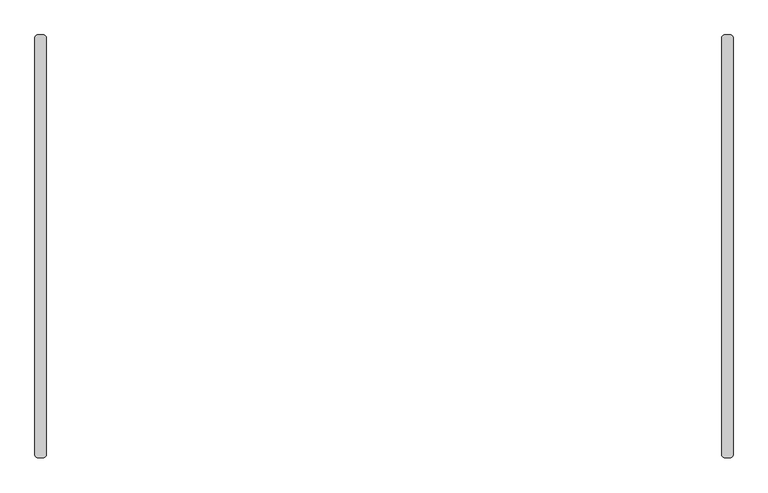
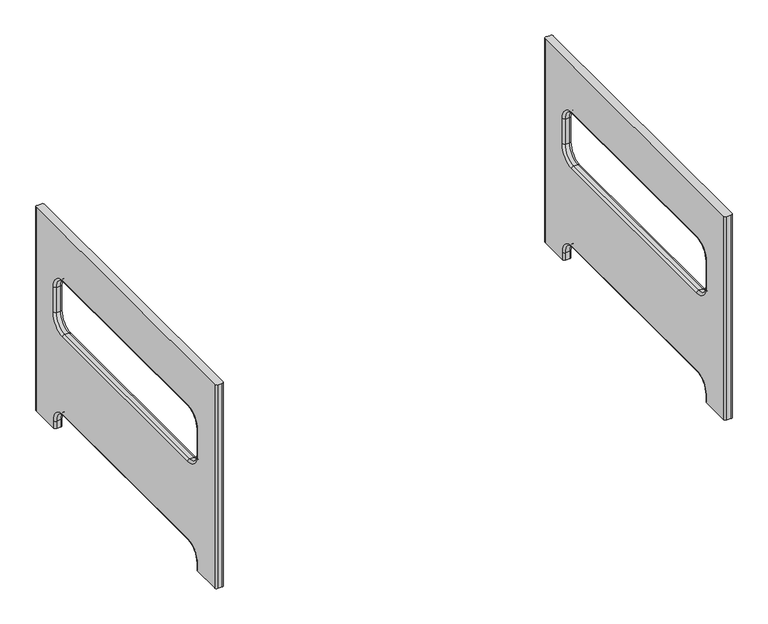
"""IFC4 building model written with IfcOpenShell, lengths in millimetres: furniture geometry, SSL-Childcraft_Outdoor-Table-Rectangle : 2161354."""

from ifc_helpers import new_model, si_unit, point, frame, origin, place, context, project, spatial, polyline, circle_curve, ellipse_curve, trimmed, source, transform, mapped, element, save
from ifc_brep_helpers import plane_surface, cylinder_surface, revolved_surface, advanced_brep


def furniture_ba2c45e2(model_context):
    return source(origin(), model_context, "Body", "AdvancedBrep", [
        advanced_brep(
        [(-573.0875, 355.6, 488.95), (-582.6125, 355.6, 488.95), (-587.375, 350.8375, 488.95), (-587.375, -350.8375, 488.95), (-582.6125, -355.6, 488.95), (-573.0875, -355.6, 488.95), (-568.325, -350.8375, 488.95), (-568.325, 350.8375, 488.95), (-573.0875, 355.6, 0.0), (-568.325, 350.8375, 0.0), (-568.325, 283.36875, 0.0), (-573.0875, 278.60625, 0.0), (-582.6125, 278.60625, 0.0), (-587.375, 283.36875, 0.0), (-587.375, 350.8375, 0.0), (-582.6125, 355.6, 0.0), (-573.0875, -355.6, 0.0), (-582.6125, -355.6, 0.0), (-587.375, -350.8375, 0.0), (-587.375, -283.36875, 0.0), (-582.6125, -278.60625, 0.0), (-573.0875, -278.60625, 0.0), (-568.325, -283.36875, 0.0), (-568.325, -350.8375, 0.0), (-587.375, 283.36875, 17.4625), (-587.375, 246.0625, 54.76875), (-587.375, -246.0625, 54.76875), (-587.375, -283.36875, 17.4625), (-587.375, -246.0625, 375.44375), (-587.375, -283.36875, 338.1375), (-587.375, -283.36875, 277.8125), (-587.375, -246.0625, 240.50625), (-587.375, 246.0625, 240.50625), (-587.375, 283.36875, 277.8125), (-587.375, 283.36875, 338.1375), (-587.375, 246.0625, 375.44375), (-568.325, -283.36875, 17.4625), (-568.325, -246.0625, 54.76875), (-568.325, 246.0625, 54.76875), (-568.325, 283.36875, 17.4625), (-568.325, -283.36875, 338.1375), (-568.325, -246.0625, 375.44375), (-568.325, 246.0625, 375.44375), (-568.325, 283.36875, 338.1375), (-568.325, 283.36875, 277.8125), (-568.325, 246.0625, 240.50625), (-568.325, -246.0625, 240.50625), (-568.325, -283.36875, 277.8125), (-582.6125, -278.60625, 17.4625), (-573.0875, -278.60625, 17.4625), (-582.6125, -246.0625, 50.00625), (-573.0875, -246.0625, 50.00625), (-582.6125, 246.0625, 50.00625), (-573.0875, 246.0625, 50.00625), (-582.6125, 278.60625, 17.4625), (-573.0875, 278.60625, 17.4625), (-573.0875, -278.60625, 338.1375), (-573.0875, -246.0625, 370.68125), (-582.6125, -278.60625, 338.1375), (-582.6125, -246.0625, 370.68125), (-573.0875, -278.60625, 277.8125), (-582.6125, -278.60625, 277.8125), (-573.0875, -246.0625, 245.26875), (-582.6125, -246.0625, 245.26875), (-573.0875, 246.0625, 245.26875), (-582.6125, 246.0625, 245.26875), (-573.0875, 278.60625, 277.8125), (-582.6125, 278.60625, 277.8125), (-573.0875, 278.60625, 338.1375), (-582.6125, 278.60625, 338.1375), (-573.0875, 246.0625, 370.68125), (-582.6125, 246.0625, 370.68125)],
        [
            (0, 1),
            (1, 2, circle_curve(frame((-582.6125, 350.8375, 488.95), z_axis=(0.0, 0.0, 1.0), x_axis=(1.0, 0.0, 0.0)), 4.7625)),
            (2, 3),
            (3, 4, circle_curve(frame((-582.6125, -350.8375, 488.95), z_axis=(0.0, 0.0, 1.0), x_axis=(1.0, 0.0, 0.0)), 4.7625)),
            (4, 5),
            (5, 6, circle_curve(frame((-573.0875, -350.8375, 488.95), z_axis=(0.0, 0.0, 1.0), x_axis=(1.0, 0.0, 0.0)), 4.7625)),
            (6, 7),
            (7, 0, circle_curve(frame((-573.0875, 350.8375, 488.95), z_axis=(0.0, 0.0, 1.0), x_axis=(1.0, 0.0, 0.0)), 4.7625)),
            (8, 9, circle_curve(frame((-573.0875, 350.8375, 0.0), z_axis=(0.0, 0.0, -1.0), x_axis=(1.0, 0.0, 0.0)), 4.7625)),
            (9, 10),
            (10, 11, circle_curve(frame((-573.0875, 283.36875, 0.0), z_axis=(0.0, 0.0, -1.0), x_axis=(0.0, 1.0, 0.0)), 4.7625)),
            (11, 12),
            (12, 13, circle_curve(frame((-582.6125, 283.36875, 0.0), z_axis=(0.0, 0.0, -1.0), x_axis=(0.0, 1.0, 0.0)), 4.7625)),
            (13, 14),
            (14, 15, circle_curve(frame((-582.6125, 350.8375, 0.0), z_axis=(0.0, 0.0, -1.0), x_axis=(1.0, 0.0, 0.0)), 4.7625)),
            (15, 8),
            (16, 17),
            (17, 18, circle_curve(frame((-582.6125, -350.8375, 0.0), z_axis=(0.0, 0.0, -1.0), x_axis=(1.0, 0.0, 0.0)), 4.7625)),
            (18, 19),
            (19, 20, circle_curve(frame((-582.6125, -283.36875, 0.0), z_axis=(0.0, 0.0, -1.0), x_axis=(0.0, -1.0, 0.0)), 4.7625)),
            (20, 21),
            (21, 22, circle_curve(frame((-573.0875, -283.36875, 0.0), z_axis=(0.0, 0.0, -1.0), x_axis=(0.0, -1.0, 0.0)), 4.7625)),
            (22, 23),
            (23, 16, circle_curve(frame((-573.0875, -350.8375, 0.0), z_axis=(0.0, 0.0, -1.0), x_axis=(1.0, 0.0, 0.0)), 4.7625)),
            (0, 8),
            (15, 1),
            (14, 2),
            (13, 24),
            (24, 25, circle_curve(frame((-587.375, 246.0625, 17.4625), z_axis=(1.0, 0.0, 0.0), x_axis=(0.0, 0.0, 1.0)), 37.30625)),
            (25, 26),
            (26, 27, circle_curve(frame((-587.375, -246.0625, 17.4625), z_axis=(1.0, 0.0, 0.0), x_axis=(0.0, -1.0, 0.0)), 37.30625)),
            (27, 19),
            (18, 3),
            (28, 29, circle_curve(frame((-587.375, -246.0625, 338.1375), z_axis=(1.0, 0.0, 0.0), x_axis=(0.0, 0.0, 1.0)), 37.30625)),
            (29, 30),
            (30, 31, circle_curve(frame((-587.375, -246.0625, 277.8125), z_axis=(1.0, 0.0, 0.0), x_axis=(0.0, -1.0, 0.0)), 37.30625)),
            (31, 32),
            (32, 33, circle_curve(frame((-587.375, 246.0625, 277.8125), z_axis=(1.0, 0.0, 0.0), x_axis=(0.0, 0.0, -1.0)), 37.30625)),
            (33, 34),
            (34, 35, circle_curve(frame((-587.375, 246.0625, 338.1375), z_axis=(1.0, 0.0, 0.0), x_axis=(0.0, 1.0, 0.0)), 37.30625)),
            (35, 28),
            (9, 7),
            (6, 23),
            (22, 36),
            (36, 37, circle_curve(frame((-568.325, -246.0625, 17.4625), z_axis=(-1.0, 0.0, 0.0), x_axis=(0.0, -1.0, 0.0)), 37.30625)),
            (37, 38),
            (38, 39, circle_curve(frame((-568.325, 246.0625, 17.4625), z_axis=(-1.0, 0.0, 0.0), x_axis=(0.0, 0.0, 1.0)), 37.30625)),
            (39, 10),
            (40, 41, circle_curve(frame((-568.325, -246.0625, 338.1375), z_axis=(-1.0, 0.0, 0.0), x_axis=(0.0, 0.0, 1.0)), 37.30625)),
            (41, 42),
            (42, 43, circle_curve(frame((-568.325, 246.0625, 338.1375), z_axis=(-1.0, 0.0, 0.0), x_axis=(0.0, 1.0, 0.0)), 37.30625)),
            (43, 44),
            (44, 45, circle_curve(frame((-568.325, 246.0625, 277.8125), z_axis=(-1.0, 0.0, 0.0), x_axis=(0.0, 0.0, -1.0)), 37.30625)),
            (45, 46),
            (46, 47, circle_curve(frame((-568.325, -246.0625, 277.8125), z_axis=(-1.0, 0.0, 0.0), x_axis=(0.0, -1.0, 0.0)), 37.30625)),
            (47, 40),
            (5, 16),
            (17, 4),
            (27, 48, circle_curve(frame((-582.6125, -283.36875, 17.4625), z_axis=(0.0, 0.0, -1.0), x_axis=(0.0, -1.0, 0.0)), 4.7625)),
            (48, 20),
            (48, 49),
            (49, 21),
            (49, 36, circle_curve(frame((-573.0875, -283.36875, 17.4625), z_axis=(0.0, 0.0, -1.0), x_axis=(0.0, -1.0, 0.0)), 4.7625)),
            (26, 50, circle_curve(frame((-582.6125, -246.0625, 54.76875), z_axis=(0.0, -1.0, 0.0), x_axis=(0.0, 0.0, 1.0)), 4.7625)),
            (50, 48, circle_curve(frame((-582.6125, -246.0625, 17.4625), z_axis=(1.0, 0.0, 0.0), x_axis=(0.0, -1.0, 0.0)), 32.54375)),
            (50, 51),
            (51, 49, circle_curve(frame((-573.0875, -246.0625, 17.4625), z_axis=(1.0, 0.0, 0.0), x_axis=(0.0, -1.0, 0.0)), 32.54375)),
            (51, 37, circle_curve(frame((-573.0875, -246.0625, 54.76875), z_axis=(0.0, -1.0, 0.0), x_axis=(0.0, 0.0, 1.0)), 4.7625)),
            (25, 52, circle_curve(frame((-582.6125, 246.0625, 54.76875), z_axis=(0.0, -1.0, 0.0), x_axis=(0.0, 0.0, 1.0)), 4.7625)),
            (52, 50),
            (52, 53),
            (53, 51),
            (53, 38, circle_curve(frame((-573.0875, 246.0625, 54.76875), z_axis=(0.0, -1.0, 0.0), x_axis=(0.0, 0.0, 1.0)), 4.7625)),
            (24, 54, circle_curve(frame((-582.6125, 283.36875, 17.4625), z_axis=(0.0, 0.0, 1.0), x_axis=(0.0, 1.0, 0.0)), 4.7625)),
            (54, 52, circle_curve(frame((-582.6125, 246.0625, 17.4625), z_axis=(1.0, 0.0, 0.0), x_axis=(0.0, 0.0, 1.0)), 32.54375)),
            (54, 55),
            (55, 53, circle_curve(frame((-573.0875, 246.0625, 17.4625), z_axis=(1.0, 0.0, 0.0), x_axis=(0.0, 0.0, 1.0)), 32.54375)),
            (55, 39, circle_curve(frame((-573.0875, 283.36875, 17.4625), z_axis=(0.0, 0.0, 1.0), x_axis=(0.0, 1.0, 0.0)), 4.7625)),
            (12, 54),
            (11, 55),
            (56, 57, circle_curve(frame((-573.0875, -246.0625, 338.1375), z_axis=(-1.0, 0.0, 0.0), x_axis=(0.0, 0.0, 1.0)), 32.54375)),
            (57, 41, circle_curve(frame((-573.0875, -246.0625, 375.44375), z_axis=(0.0, -1.0, 0.0), x_axis=(0.0, 0.0, -1.0)), 4.7625)),
            (40, 56, circle_curve(frame((-573.0875, -283.36875, 338.1375), z_axis=(0.0, 0.0, 1.0), x_axis=(0.0, 1.0, 0.0)), 4.7625)),
            (56, 58),
            (58, 59, circle_curve(frame((-582.6125, -246.0625, 338.1375), z_axis=(-1.0, 0.0, 0.0), x_axis=(0.0, 0.0, 1.0)), 32.54375)),
            (59, 57),
            (58, 29, circle_curve(frame((-582.6125, -283.36875, 338.1375), z_axis=(0.0, 0.0, 1.0), x_axis=(0.0, 1.0, 0.0)), 4.7625)),
            (28, 59, circle_curve(frame((-582.6125, -246.0625, 375.44375), z_axis=(0.0, -1.0, 0.0), x_axis=(0.0, 0.0, -1.0)), 4.7625)),
            (47, 60, circle_curve(frame((-573.0875, -283.36875, 277.8125), z_axis=(0.0, 0.0, 1.0), x_axis=(0.0, 1.0, 0.0)), 4.7625)),
            (60, 56),
            (60, 61),
            (61, 58),
            (61, 30, circle_curve(frame((-582.6125, -283.36875, 277.8125), z_axis=(0.0, 0.0, 1.0), x_axis=(0.0, 1.0, 0.0)), 4.7625)),
            (46, 62, circle_curve(frame((-573.0875, -246.0625, 240.50625), z_axis=(0.0, -1.0, 0.0), x_axis=(0.0, 0.0, 1.0)), 4.7625)),
            (62, 60, circle_curve(frame((-573.0875, -246.0625, 277.8125), z_axis=(-1.0, 0.0, 0.0), x_axis=(0.0, -1.0, 0.0)), 32.54375)),
            (62, 63),
            (63, 61, circle_curve(frame((-582.6125, -246.0625, 277.8125), z_axis=(-1.0, 0.0, 0.0), x_axis=(0.0, -1.0, 0.0)), 32.54375)),
            (63, 31, circle_curve(frame((-582.6125, -246.0625, 240.50625), z_axis=(0.0, -1.0, 0.0), x_axis=(0.0, 0.0, 1.0)), 4.7625)),
            (45, 64, circle_curve(frame((-573.0875, 246.0625, 240.50625), z_axis=(0.0, -1.0, 0.0), x_axis=(0.0, 0.0, 1.0)), 4.7625)),
            (64, 62),
            (64, 65),
            (65, 63),
            (65, 32, circle_curve(frame((-582.6125, 246.0625, 240.50625), z_axis=(0.0, -1.0, 0.0), x_axis=(0.0, 0.0, 1.0)), 4.7625)),
            (44, 66, circle_curve(frame((-573.0875, 283.36875, 277.8125), z_axis=(0.0, 0.0, -1.0), x_axis=(0.0, -1.0, 0.0)), 4.7625)),
            (66, 64, circle_curve(frame((-573.0875, 246.0625, 277.8125), z_axis=(-1.0, 0.0, 0.0), x_axis=(0.0, 0.0, -1.0)), 32.54375)),
            (66, 67),
            (67, 65, circle_curve(frame((-582.6125, 246.0625, 277.8125), z_axis=(-1.0, 0.0, 0.0), x_axis=(0.0, 0.0, -1.0)), 32.54375)),
            (67, 33, circle_curve(frame((-582.6125, 283.36875, 277.8125), z_axis=(0.0, 0.0, -1.0), x_axis=(0.0, -1.0, 0.0)), 4.7625)),
            (43, 68, circle_curve(frame((-573.0875, 283.36875, 338.1375), z_axis=(0.0, 0.0, -1.0), x_axis=(0.0, -1.0, 0.0)), 4.7625)),
            (68, 66),
            (68, 69),
            (69, 67),
            (69, 34, circle_curve(frame((-582.6125, 283.36875, 338.1375), z_axis=(0.0, 0.0, -1.0), x_axis=(0.0, -1.0, 0.0)), 4.7625)),
            (42, 70, circle_curve(frame((-573.0875, 246.0625, 375.44375), z_axis=(0.0, 1.0, 0.0), x_axis=(0.0, 0.0, -1.0)), 4.7625)),
            (70, 68, circle_curve(frame((-573.0875, 246.0625, 338.1375), z_axis=(-1.0, 0.0, 0.0), x_axis=(0.0, 1.0, 0.0)), 32.54375)),
            (70, 71),
            (71, 69, circle_curve(frame((-582.6125, 246.0625, 338.1375), z_axis=(-1.0, 0.0, 0.0), x_axis=(0.0, 1.0, 0.0)), 32.54375)),
            (71, 35, circle_curve(frame((-582.6125, 246.0625, 375.44375), z_axis=(0.0, 1.0, 0.0), x_axis=(0.0, 0.0, -1.0)), 4.7625)),
            (57, 70),
            (59, 71),
        ],
        [
            plane_surface(frame((-582.6125, 355.6, 488.95), z_axis=(0.0, 0.0, 1.0), x_axis=(-1.0, 0.0, 0.0))),
            plane_surface(frame((-582.6125, 355.6, 0.0), z_axis=(0.0, 0.0, -1.0), x_axis=(1.0, 0.0, 0.0))),
            plane_surface(frame((-573.0875, 355.6, 488.95), z_axis=(0.0, 1.0, 0.0), x_axis=(0.0, 0.0, -1.0))),
            cylinder_surface(frame((-582.6125, 350.8375, 0.0), z_axis=(0.0, 0.0, 1.0), x_axis=(1.0, 0.0, 0.0)), 4.7625),
            plane_surface(frame((-587.375, 350.8375, 488.95), z_axis=(-1.0, 0.0, 0.0), x_axis=(0.0, 0.0, -1.0))),
            plane_surface(frame((-568.325, 350.04375, 488.95), z_axis=(1.0, 0.0, 0.0), x_axis=(0.0, 0.0, -1.0))),
            cylinder_surface(frame((-573.0875, 350.8375, 0.0), z_axis=(0.0, 0.0, 1.0), x_axis=(1.0, 0.0, 0.0)), 4.7625),
            cylinder_surface(frame((-573.0875, -350.8375, 0.0), z_axis=(0.0, 0.0, 1.0), x_axis=(1.0, 0.0, 0.0)), 4.7625),
            cylinder_surface(frame((-582.6125, -350.8375, 0.0), z_axis=(0.0, 0.0, 1.0), x_axis=(1.0, 0.0, 0.0)), 4.7625),
            plane_surface(frame((-582.6125, -355.6, 488.95), z_axis=(0.0, -1.0, 0.0), x_axis=(0.0, 0.0, -1.0))),
            cylinder_surface(frame((-582.6125, -283.36875, 0.0), z_axis=(0.0, 0.0, -1.0), x_axis=(0.0, -1.0, 0.0)), 4.7625),
            plane_surface(frame((-582.6125, -278.60625, 0.0), z_axis=(0.0, 1.0, 0.0), x_axis=(0.0, 0.0, 1.0))),
            cylinder_surface(frame((-573.0875, -283.36875, 0.0), z_axis=(0.0, 0.0, -1.0), x_axis=(0.0, -1.0, 0.0)), 4.7625),
            revolved_surface(trimmed(ellipse_curve(frame((-582.6125, -283.36875, 17.4625), z_axis=(0.0, 0.0, -1.0), x_axis=(0.0, -1.0, 0.0)), 4.7625, 4.7625), [point((-587.375, -283.36875, 17.4625))], [point((-582.6125, -278.60625, 17.4625))], True, "CARTESIAN"), (0.0, -246.0625, 17.4625), (-1.0, 0.0, 0.0)),
            revolved_surface(polyline([(-582.6125, -278.60625, 17.4625), (-573.0875, -278.60625, 17.4625)]), (0.0, -246.0625, 17.4625), (-1.0, 0.0, 0.0)),
            revolved_surface(trimmed(ellipse_curve(frame((-573.0875, -283.36875, 17.4625), z_axis=(0.0, 0.0, -1.0), x_axis=(0.0, -1.0, 0.0)), 4.7625, 4.7625), [point((-573.0875, -278.60625, 17.4625))], [point((-568.325, -283.36875, 17.4625))], True, "CARTESIAN"), (0.0, -246.0625, 17.4625), (-1.0, 0.0, 0.0)),
            cylinder_surface(frame((-582.6125, -246.0625, 54.76875), z_axis=(0.0, -1.0, 0.0), x_axis=(0.0, 0.0, 1.0)), 4.7625),
            plane_surface(frame((-582.6125, -246.0625, 50.00625), z_axis=(0.0, 0.0, -1.0), x_axis=(0.0, 1.0, 0.0))),
            cylinder_surface(frame((-573.0875, -246.0625, 54.76875), z_axis=(0.0, -1.0, 0.0), x_axis=(0.0, 0.0, 1.0)), 4.7625),
            revolved_surface(trimmed(ellipse_curve(frame((-582.6125, 246.0625, 54.76875), z_axis=(0.0, -1.0, 0.0), x_axis=(0.0, 0.0, 1.0)), 4.7625, 4.7625), [point((-587.375, 246.0625, 54.76875))], [point((-582.6125, 246.0625, 50.00625))], True, "CARTESIAN"), (0.0, 246.0625, 17.4625), (-1.0, 0.0, 0.0)),
            revolved_surface(polyline([(-582.6125, 246.0625, 50.00625), (-573.0875, 246.0625, 50.00625)]), (0.0, 246.0625, 17.4625), (-1.0, 0.0, 0.0)),
            revolved_surface(trimmed(ellipse_curve(frame((-573.0875, 246.0625, 54.76875), z_axis=(0.0, -1.0, 0.0), x_axis=(0.0, 0.0, 1.0)), 4.7625, 4.7625), [point((-573.0875, 246.0625, 50.00625))], [point((-568.325, 246.0625, 54.76875))], True, "CARTESIAN"), (0.0, 246.0625, 17.4625), (-1.0, 0.0, 0.0)),
            cylinder_surface(frame((-582.6125, 283.36875, 17.4625), z_axis=(0.0, 0.0, 1.0), x_axis=(0.0, 1.0, 0.0)), 4.7625),
            plane_surface(frame((-582.6125, 278.60625, 17.4625), z_axis=(0.0, -1.0, 0.0), x_axis=(0.0, 0.0, -1.0))),
            cylinder_surface(frame((-573.0875, 283.36875, 17.4625), z_axis=(0.0, 0.0, 1.0), x_axis=(0.0, 1.0, 0.0)), 4.7625),
            revolved_surface(trimmed(ellipse_curve(frame((-573.0875, -246.0625, 375.44375), z_axis=(0.0, 1.0, 0.0), x_axis=(0.0, 0.0, -1.0)), 4.7625, 4.7625), [point((-568.325, -246.0625, 375.44375))], [point((-573.0875, -246.0625, 370.68125))], True, "CARTESIAN"), (0.0, -246.0625, 338.1375), (1.0, 0.0, 0.0)),
            revolved_surface(polyline([(-573.0875, -246.0625, 370.68125), (-582.6125, -246.0625, 370.68125)]), (0.0, -246.0625, 338.1375), (1.0, 0.0, 0.0)),
            revolved_surface(trimmed(ellipse_curve(frame((-582.6125, -246.0625, 375.44375), z_axis=(0.0, 1.0, 0.0), x_axis=(0.0, 0.0, -1.0)), 4.7625, 4.7625), [point((-582.6125, -246.0625, 370.68125))], [point((-587.375, -246.0625, 375.44375))], True, "CARTESIAN"), (0.0, -246.0625, 338.1375), (1.0, 0.0, 0.0)),
            cylinder_surface(frame((-573.0875, -283.36875, 338.1375), z_axis=(0.0, 0.0, 1.0), x_axis=(0.0, 1.0, 0.0)), 4.7625),
            plane_surface(frame((-573.0875, -278.60625, 338.1375), z_axis=(0.0, 1.0, 0.0), x_axis=(0.0, 0.0, -1.0))),
            cylinder_surface(frame((-582.6125, -283.36875, 338.1375), z_axis=(0.0, 0.0, 1.0), x_axis=(0.0, 1.0, 0.0)), 4.7625),
            revolved_surface(trimmed(ellipse_curve(frame((-573.0875, -283.36875, 277.8125), z_axis=(0.0, 0.0, 1.0), x_axis=(0.0, 1.0, 0.0)), 4.7625, 4.7625), [point((-568.325, -283.36875, 277.8125))], [point((-573.0875, -278.60625, 277.8125))], True, "CARTESIAN"), (0.0, -246.0625, 277.8125), (1.0, 0.0, 0.0)),
            revolved_surface(polyline([(-573.0875, -278.60625, 277.8125), (-582.6125, -278.60625, 277.8125)]), (0.0, -246.0625, 277.8125), (1.0, 0.0, 0.0)),
            revolved_surface(trimmed(ellipse_curve(frame((-582.6125, -283.36875, 277.8125), z_axis=(0.0, 0.0, 1.0), x_axis=(0.0, 1.0, 0.0)), 4.7625, 4.7625), [point((-582.6125, -278.60625, 277.8125))], [point((-587.375, -283.36875, 277.8125))], True, "CARTESIAN"), (0.0, -246.0625, 277.8125), (1.0, 0.0, 0.0)),
            cylinder_surface(frame((-573.0875, -246.0625, 240.50625), z_axis=(0.0, -1.0, 0.0), x_axis=(0.0, 0.0, 1.0)), 4.7625),
            plane_surface(frame((-573.0875, -246.0625, 245.26875), z_axis=(0.0, 0.0, 1.0), x_axis=(0.0, 1.0, 0.0))),
            cylinder_surface(frame((-582.6125, -246.0625, 240.50625), z_axis=(0.0, -1.0, 0.0), x_axis=(0.0, 0.0, 1.0)), 4.7625),
            revolved_surface(trimmed(ellipse_curve(frame((-573.0875, 246.0625, 240.50625), z_axis=(0.0, -1.0, 0.0), x_axis=(0.0, 0.0, 1.0)), 4.7625, 4.7625), [point((-568.325, 246.0625, 240.50625))], [point((-573.0875, 246.0625, 245.26875))], True, "CARTESIAN"), (0.0, 246.0625, 277.8125), (1.0, 0.0, 0.0)),
            revolved_surface(polyline([(-573.0875, 246.0625, 245.26875), (-582.6125, 246.0625, 245.26875)]), (0.0, 246.0625, 277.8125), (1.0, 0.0, 0.0)),
            revolved_surface(trimmed(ellipse_curve(frame((-582.6125, 246.0625, 240.50625), z_axis=(0.0, -1.0, 0.0), x_axis=(0.0, 0.0, 1.0)), 4.7625, 4.7625), [point((-582.6125, 246.0625, 245.26875))], [point((-587.375, 246.0625, 240.50625))], True, "CARTESIAN"), (0.0, 246.0625, 277.8125), (1.0, 0.0, 0.0)),
            cylinder_surface(frame((-573.0875, 283.36875, 277.8125), z_axis=(0.0, 0.0, -1.0), x_axis=(0.0, -1.0, 0.0)), 4.7625),
            plane_surface(frame((-573.0875, 278.60625, 277.8125), z_axis=(0.0, -1.0, 0.0), x_axis=(0.0, 0.0, 1.0))),
            cylinder_surface(frame((-582.6125, 283.36875, 277.8125), z_axis=(0.0, 0.0, -1.0), x_axis=(0.0, -1.0, 0.0)), 4.7625),
            revolved_surface(trimmed(ellipse_curve(frame((-573.0875, 283.36875, 338.1375), z_axis=(0.0, 0.0, -1.0), x_axis=(0.0, -1.0, 0.0)), 4.7625, 4.7625), [point((-568.325, 283.36875, 338.1375))], [point((-573.0875, 278.60625, 338.1375))], True, "CARTESIAN"), (0.0, 246.0625, 338.1375), (1.0, 0.0, 0.0)),
            revolved_surface(polyline([(-573.0875, 278.60625, 338.1375), (-582.6125, 278.60625, 338.1375)]), (0.0, 246.0625, 338.1375), (1.0, 0.0, 0.0)),
            revolved_surface(trimmed(ellipse_curve(frame((-582.6125, 283.36875, 338.1375), z_axis=(0.0, 0.0, -1.0), x_axis=(0.0, -1.0, 0.0)), 4.7625, 4.7625), [point((-582.6125, 278.60625, 338.1375))], [point((-587.375, 283.36875, 338.1375))], True, "CARTESIAN"), (0.0, 246.0625, 338.1375), (1.0, 0.0, 0.0)),
            cylinder_surface(frame((-573.0875, 246.0625, 375.44375), z_axis=(0.0, 1.0, 0.0), x_axis=(0.0, 0.0, -1.0)), 4.7625),
            plane_surface(frame((-573.0875, 246.0625, 370.68125), z_axis=(0.0, 0.0, -1.0), x_axis=(0.0, -1.0, 0.0))),
            cylinder_surface(frame((-582.6125, 246.0625, 375.44375), z_axis=(0.0, 1.0, 0.0), x_axis=(0.0, 0.0, -1.0)), 4.7625),
        ],
        [
            (0, [[1, 2, 3, 4, 5, 6, 7, 8]]),
            (1, [[9, 10, 11, 12, 13, 14, 15, 16]]),
            (1, [[17, 18, 19, 20, 21, 22, 23, 24]]),
            (2, [[-1, 25, -16, 26]]),
            (3, [[-2, -26, -15, 27]]),
            (4, [[-27, -14, 28, 29, 30, 31, 32, -19, 33, -3], [34, 35, 36, 37, 38, 39, 40, 41]]),
            (5, [[42, -7, 43, -23, 44, 45, 46, 47, 48, -10], [49, 50, 51, 52, 53, 54, 55, 56]]),
            (6, [[-8, -42, -9, -25]]),
            (7, [[-6, 57, -24, -43]]),
            (8, [[-4, -33, -18, 58]]),
            (9, [[-5, -58, -17, -57]]),
            (10, [[-20, -32, 59, 60]]),
            (11, [[-21, -60, 61, 62]]),
            (12, [[-22, -62, 63, -44]]),
            (13, [[-31, 64, 65, -59]]),
            (14, [[-61, -65, 66, 67]]),
            (15, [[-63, -67, 68, -45]]),
            (16, [[-30, 69, 70, -64]]),
            (17, [[-66, -70, 71, 72]]),
            (18, [[-46, -68, -72, 73]]),
            (19, [[-29, 74, 75, -69]]),
            (20, [[-71, -75, 76, 77]]),
            (21, [[-47, -73, -77, 78]]),
            (22, [[-28, -13, 79, -74]]),
            (23, [[-76, -79, -12, 80]]),
            (24, [[-48, -78, -80, -11]]),
            (25, [[81, 82, -49, 83]]),
            (26, [[-81, 84, 85, 86]]),
            (27, [[-85, 87, -34, 88]]),
            (28, [[-83, -56, 89, 90]]),
            (29, [[-84, -90, 91, 92]]),
            (30, [[-87, -92, 93, -35]]),
            (31, [[-89, -55, 94, 95]]),
            (32, [[-91, -95, 96, 97]]),
            (33, [[-93, -97, 98, -36]]),
            (34, [[-94, -54, 99, 100]]),
            (35, [[-96, -100, 101, 102]]),
            (36, [[-98, -102, 103, -37]]),
            (37, [[-99, -53, 104, 105]]),
            (38, [[-101, -105, 106, 107]]),
            (39, [[-103, -107, 108, -38]]),
            (40, [[-104, -52, 109, 110]]),
            (41, [[-106, -110, 111, 112]]),
            (42, [[-108, -112, 113, -39]]),
            (43, [[-109, -51, 114, 115]]),
            (44, [[-111, -115, 116, 117]]),
            (45, [[-113, -117, 118, -40]]),
            (46, [[-82, 119, -114, -50]]),
            (47, [[-86, 120, -116, -119]]),
            (48, [[-88, -41, -118, -120]]),
        ],
    ),
        advanced_brep(
        [(573.0875, 355.6, 488.95), (568.325, 350.8375, 488.95), (568.325, -350.8375, 488.95), (573.0875, -355.6, 488.95), (582.6125, -355.6, 488.95), (587.375, -350.8375, 488.95), (587.375, 350.8375, 488.95), (582.6125, 355.6, 488.95), (573.0875, 355.6, 0.0), (582.6125, 355.6, 0.0), (587.375, 350.8375, 0.0), (587.375, 283.36875, 0.0), (582.6125, 278.60625, 0.0), (573.0875, 278.60625, 0.0), (568.325, 283.36875, 0.0), (568.325, 350.8375, 0.0), (568.325, -283.36875, 0.0), (573.0875, -278.60625, 0.0), (582.6125, -278.60625, 0.0), (587.375, -283.36875, 0.0), (587.375, -350.8375, 0.0), (582.6125, -355.6, 0.0), (573.0875, -355.6, 0.0), (568.325, -350.8375, 0.0), (568.325, 283.36875, 17.4625), (568.325, 246.0625, 54.76875), (568.325, -246.0625, 54.76875), (568.325, -283.36875, 17.4625), (568.325, -246.0625, 375.44375), (568.325, -283.36875, 338.1375), (568.325, -283.36875, 277.8125), (568.325, -246.0625, 240.50625), (568.325, 246.0625, 240.50625), (568.325, 283.36875, 277.8125), (568.325, 283.36875, 338.1375), (568.325, 246.0625, 375.44375), (587.375, -283.36875, 17.4625), (587.375, -246.0625, 54.76875), (587.375, 246.0625, 54.76875), (587.375, 283.36875, 17.4625), (587.375, -283.36875, 338.1375), (587.375, -246.0625, 375.44375), (587.375, 246.0625, 375.44375), (587.375, 283.36875, 338.1375), (587.375, 283.36875, 277.8125), (587.375, 246.0625, 240.50625), (587.375, -246.0625, 240.50625), (587.375, -283.36875, 277.8125), (573.0875, -278.60625, 17.4625), (582.6125, -278.60625, 17.4625), (573.0875, -246.0625, 50.00625), (582.6125, -246.0625, 50.00625), (573.0875, 246.0625, 50.00625), (582.6125, 246.0625, 50.00625), (573.0875, 278.60625, 17.4625), (582.6125, 278.60625, 17.4625), (582.6125, -278.60625, 338.1375), (582.6125, -246.0625, 370.68125), (573.0875, -278.60625, 338.1375), (573.0875, -246.0625, 370.68125), (582.6125, -278.60625, 277.8125), (573.0875, -278.60625, 277.8125), (582.6125, -246.0625, 245.26875), (573.0875, -246.0625, 245.26875), (582.6125, 246.0625, 245.26875), (573.0875, 246.0625, 245.26875), (582.6125, 278.60625, 277.8125), (573.0875, 278.60625, 277.8125), (582.6125, 278.60625, 338.1375), (573.0875, 278.60625, 338.1375), (582.6125, 246.0625, 370.68125), (573.0875, 246.0625, 370.68125)],
        [
            (0, 1, circle_curve(frame((573.0875, 350.8375, 488.95), z_axis=(0.0, 0.0, 1.0), x_axis=(1.0, 0.0, 0.0)), 4.7625)),
            (1, 2),
            (2, 3, circle_curve(frame((573.0875, -350.8375, 488.95), z_axis=(0.0, 0.0, 1.0), x_axis=(1.0, 0.0, 0.0)), 4.7625)),
            (3, 4),
            (4, 5, circle_curve(frame((582.6125, -350.8375, 488.95), z_axis=(0.0, 0.0, 1.0), x_axis=(1.0, 0.0, 0.0)), 4.7625)),
            (5, 6),
            (6, 7, circle_curve(frame((582.6125, 350.8375, 488.95), z_axis=(0.0, 0.0, 1.0), x_axis=(1.0, 0.0, 0.0)), 4.7625)),
            (7, 0),
            (8, 9),
            (9, 10, circle_curve(frame((582.6125, 350.8375, 0.0), z_axis=(0.0, 0.0, -1.0), x_axis=(1.0, 0.0, 0.0)), 4.7625)),
            (10, 11),
            (11, 12, circle_curve(frame((582.6125, 283.36875, 0.0), z_axis=(0.0, 0.0, -1.0), x_axis=(0.0, 1.0, 0.0)), 4.7625)),
            (12, 13),
            (13, 14, circle_curve(frame((573.0875, 283.36875, 0.0), z_axis=(0.0, 0.0, -1.0), x_axis=(0.0, 1.0, 0.0)), 4.7625)),
            (14, 15),
            (15, 8, circle_curve(frame((573.0875, 350.8375, 0.0), z_axis=(0.0, 0.0, -1.0), x_axis=(1.0, 0.0, 0.0)), 4.7625)),
            (16, 17, circle_curve(frame((573.0875, -283.36875, 0.0), z_axis=(0.0, 0.0, -1.0), x_axis=(0.0, -1.0, 0.0)), 4.7625)),
            (17, 18),
            (18, 19, circle_curve(frame((582.6125, -283.36875, 0.0), z_axis=(0.0, 0.0, -1.0), x_axis=(0.0, -1.0, 0.0)), 4.7625)),
            (19, 20),
            (20, 21, circle_curve(frame((582.6125, -350.8375, 0.0), z_axis=(0.0, 0.0, -1.0), x_axis=(1.0, 0.0, 0.0)), 4.7625)),
            (21, 22),
            (22, 23, circle_curve(frame((573.0875, -350.8375, 0.0), z_axis=(0.0, 0.0, -1.0), x_axis=(1.0, 0.0, 0.0)), 4.7625)),
            (23, 16),
            (0, 8),
            (15, 1),
            (14, 24),
            (24, 25, circle_curve(frame((568.325, 246.0625, 17.4625), z_axis=(1.0, 0.0, 0.0), x_axis=(0.0, 0.0, 1.0)), 37.30625)),
            (25, 26),
            (26, 27, circle_curve(frame((568.325, -246.0625, 17.4625), z_axis=(1.0, 0.0, 0.0), x_axis=(0.0, -1.0, 0.0)), 37.30625)),
            (27, 16),
            (23, 2),
            (28, 29, circle_curve(frame((568.325, -246.0625, 338.1375), z_axis=(1.0, 0.0, 0.0), x_axis=(0.0, 0.0, 1.0)), 37.30625)),
            (29, 30),
            (30, 31, circle_curve(frame((568.325, -246.0625, 277.8125), z_axis=(1.0, 0.0, 0.0), x_axis=(0.0, -1.0, 0.0)), 37.30625)),
            (31, 32),
            (32, 33, circle_curve(frame((568.325, 246.0625, 277.8125), z_axis=(1.0, 0.0, 0.0), x_axis=(0.0, 0.0, -1.0)), 37.30625)),
            (33, 34),
            (34, 35, circle_curve(frame((568.325, 246.0625, 338.1375), z_axis=(1.0, 0.0, 0.0), x_axis=(0.0, 1.0, 0.0)), 37.30625)),
            (35, 28),
            (5, 20),
            (19, 36),
            (36, 37, circle_curve(frame((587.375, -246.0625, 17.4625), z_axis=(-1.0, 0.0, 0.0), x_axis=(0.0, -1.0, 0.0)), 37.30625)),
            (37, 38),
            (38, 39, circle_curve(frame((587.375, 246.0625, 17.4625), z_axis=(-1.0, 0.0, 0.0), x_axis=(0.0, 0.0, 1.0)), 37.30625)),
            (39, 11),
            (10, 6),
            (40, 41, circle_curve(frame((587.375, -246.0625, 338.1375), z_axis=(-1.0, 0.0, 0.0), x_axis=(0.0, 0.0, 1.0)), 37.30625)),
            (41, 42),
            (42, 43, circle_curve(frame((587.375, 246.0625, 338.1375), z_axis=(-1.0, 0.0, 0.0), x_axis=(0.0, 1.0, 0.0)), 37.30625)),
            (43, 44),
            (44, 45, circle_curve(frame((587.375, 246.0625, 277.8125), z_axis=(-1.0, 0.0, 0.0), x_axis=(0.0, 0.0, -1.0)), 37.30625)),
            (45, 46),
            (46, 47, circle_curve(frame((587.375, -246.0625, 277.8125), z_axis=(-1.0, 0.0, 0.0), x_axis=(0.0, -1.0, 0.0)), 37.30625)),
            (47, 40),
            (9, 7),
            (3, 22),
            (21, 4),
            (17, 48),
            (48, 49),
            (49, 18),
            (48, 50, circle_curve(frame((573.0875, -246.0625, 17.4625), z_axis=(-1.0, 0.0, 0.0), x_axis=(0.0, -1.0, 0.0)), 32.54375)),
            (50, 51),
            (51, 49, circle_curve(frame((582.6125, -246.0625, 17.4625), z_axis=(1.0, 0.0, 0.0), x_axis=(0.0, -1.0, 0.0)), 32.54375)),
            (50, 52),
            (52, 53),
            (53, 51),
            (52, 54, circle_curve(frame((573.0875, 246.0625, 17.4625), z_axis=(-1.0, 0.0, 0.0), x_axis=(0.0, 0.0, 1.0)), 32.54375)),
            (54, 55),
            (55, 53, circle_curve(frame((582.6125, 246.0625, 17.4625), z_axis=(1.0, 0.0, 0.0), x_axis=(0.0, 0.0, 1.0)), 32.54375)),
            (54, 13),
            (12, 55),
            (27, 48, circle_curve(frame((573.0875, -283.36875, 17.4625), z_axis=(0.0, 0.0, -1.0), x_axis=(0.0, -1.0, 0.0)), 4.7625)),
            (49, 36, circle_curve(frame((582.6125, -283.36875, 17.4625), z_axis=(0.0, 0.0, -1.0), x_axis=(0.0, -1.0, 0.0)), 4.7625)),
            (26, 50, circle_curve(frame((573.0875, -246.0625, 54.76875), z_axis=(0.0, -1.0, 0.0), x_axis=(0.0, 0.0, 1.0)), 4.7625)),
            (51, 37, circle_curve(frame((582.6125, -246.0625, 54.76875), z_axis=(0.0, -1.0, 0.0), x_axis=(0.0, 0.0, 1.0)), 4.7625)),
            (25, 52, circle_curve(frame((573.0875, 246.0625, 54.76875), z_axis=(0.0, -1.0, 0.0), x_axis=(0.0, 0.0, 1.0)), 4.7625)),
            (53, 38, circle_curve(frame((582.6125, 246.0625, 54.76875), z_axis=(0.0, -1.0, 0.0), x_axis=(0.0, 0.0, 1.0)), 4.7625)),
            (24, 54, circle_curve(frame((573.0875, 283.36875, 17.4625), z_axis=(0.0, 0.0, 1.0), x_axis=(0.0, 1.0, 0.0)), 4.7625)),
            (55, 39, circle_curve(frame((582.6125, 283.36875, 17.4625), z_axis=(0.0, 0.0, 1.0), x_axis=(0.0, 1.0, 0.0)), 4.7625)),
            (56, 57, circle_curve(frame((582.6125, -246.0625, 338.1375), z_axis=(-1.0, 0.0, 0.0), x_axis=(0.0, 0.0, 1.0)), 32.54375)),
            (57, 41, circle_curve(frame((582.6125, -246.0625, 375.44375), z_axis=(0.0, -1.0, 0.0), x_axis=(0.0, 0.0, -1.0)), 4.7625)),
            (40, 56, circle_curve(frame((582.6125, -283.36875, 338.1375), z_axis=(0.0, 0.0, 1.0), x_axis=(0.0, 1.0, 0.0)), 4.7625)),
            (56, 58),
            (58, 59, circle_curve(frame((573.0875, -246.0625, 338.1375), z_axis=(-1.0, 0.0, 0.0), x_axis=(0.0, 0.0, 1.0)), 32.54375)),
            (59, 57),
            (58, 29, circle_curve(frame((573.0875, -283.36875, 338.1375), z_axis=(0.0, 0.0, 1.0), x_axis=(0.0, 1.0, 0.0)), 4.7625)),
            (28, 59, circle_curve(frame((573.0875, -246.0625, 375.44375), z_axis=(0.0, -1.0, 0.0), x_axis=(0.0, 0.0, -1.0)), 4.7625)),
            (47, 60, circle_curve(frame((582.6125, -283.36875, 277.8125), z_axis=(0.0, 0.0, 1.0), x_axis=(0.0, 1.0, 0.0)), 4.7625)),
            (60, 56),
            (60, 61),
            (61, 58),
            (61, 30, circle_curve(frame((573.0875, -283.36875, 277.8125), z_axis=(0.0, 0.0, 1.0), x_axis=(0.0, 1.0, 0.0)), 4.7625)),
            (46, 62, circle_curve(frame((582.6125, -246.0625, 240.50625), z_axis=(0.0, -1.0, 0.0), x_axis=(0.0, 0.0, 1.0)), 4.7625)),
            (62, 60, circle_curve(frame((582.6125, -246.0625, 277.8125), z_axis=(-1.0, 0.0, 0.0), x_axis=(0.0, -1.0, 0.0)), 32.54375)),
            (62, 63),
            (63, 61, circle_curve(frame((573.0875, -246.0625, 277.8125), z_axis=(-1.0, 0.0, 0.0), x_axis=(0.0, -1.0, 0.0)), 32.54375)),
            (63, 31, circle_curve(frame((573.0875, -246.0625, 240.50625), z_axis=(0.0, -1.0, 0.0), x_axis=(0.0, 0.0, 1.0)), 4.7625)),
            (45, 64, circle_curve(frame((582.6125, 246.0625, 240.50625), z_axis=(0.0, -1.0, 0.0), x_axis=(0.0, 0.0, 1.0)), 4.7625)),
            (64, 62),
            (64, 65),
            (65, 63),
            (65, 32, circle_curve(frame((573.0875, 246.0625, 240.50625), z_axis=(0.0, -1.0, 0.0), x_axis=(0.0, 0.0, 1.0)), 4.7625)),
            (44, 66, circle_curve(frame((582.6125, 283.36875, 277.8125), z_axis=(0.0, 0.0, -1.0), x_axis=(0.0, -1.0, 0.0)), 4.7625)),
            (66, 64, circle_curve(frame((582.6125, 246.0625, 277.8125), z_axis=(-1.0, 0.0, 0.0), x_axis=(0.0, 0.0, -1.0)), 32.54375)),
            (66, 67),
            (67, 65, circle_curve(frame((573.0875, 246.0625, 277.8125), z_axis=(-1.0, 0.0, 0.0), x_axis=(0.0, 0.0, -1.0)), 32.54375)),
            (67, 33, circle_curve(frame((573.0875, 283.36875, 277.8125), z_axis=(0.0, 0.0, -1.0), x_axis=(0.0, -1.0, 0.0)), 4.7625)),
            (43, 68, circle_curve(frame((582.6125, 283.36875, 338.1375), z_axis=(0.0, 0.0, -1.0), x_axis=(0.0, -1.0, 0.0)), 4.7625)),
            (68, 66),
            (68, 69),
            (69, 67),
            (69, 34, circle_curve(frame((573.0875, 283.36875, 338.1375), z_axis=(0.0, 0.0, -1.0), x_axis=(0.0, -1.0, 0.0)), 4.7625)),
            (42, 70, circle_curve(frame((582.6125, 246.0625, 375.44375), z_axis=(0.0, 1.0, 0.0), x_axis=(0.0, 0.0, -1.0)), 4.7625)),
            (70, 68, circle_curve(frame((582.6125, 246.0625, 338.1375), z_axis=(-1.0, 0.0, 0.0), x_axis=(0.0, 1.0, 0.0)), 32.54375)),
            (70, 71),
            (71, 69, circle_curve(frame((573.0875, 246.0625, 338.1375), z_axis=(-1.0, 0.0, 0.0), x_axis=(0.0, 1.0, 0.0)), 32.54375)),
            (71, 35, circle_curve(frame((573.0875, 246.0625, 375.44375), z_axis=(0.0, 1.0, 0.0), x_axis=(0.0, 0.0, -1.0)), 4.7625)),
            (57, 70),
            (59, 71),
        ],
        [
            plane_surface(frame((-582.6125, 355.6, 488.95), z_axis=(0.0, 0.0, 1.0), x_axis=(-1.0, 0.0, 0.0))),
            plane_surface(frame((-582.6125, 355.6, 0.0), z_axis=(0.0, 0.0, -1.0), x_axis=(1.0, 0.0, 0.0))),
            cylinder_surface(frame((573.0875, 350.8375, 0.0), z_axis=(0.0, 0.0, 1.0), x_axis=(1.0, 0.0, 0.0)), 4.7625),
            plane_surface(frame((568.325, 350.8375, 488.95), z_axis=(-1.0, 0.0, 0.0), x_axis=(0.0, 0.0, -1.0))),
            plane_surface(frame((587.375, 350.04375, 488.95), z_axis=(1.0, 0.0, 0.0), x_axis=(0.0, 0.0, -1.0))),
            cylinder_surface(frame((582.6125, 350.8375, 0.0), z_axis=(0.0, 0.0, 1.0), x_axis=(1.0, 0.0, 0.0)), 4.7625),
            plane_surface(frame((582.6125, 355.6, 488.95), z_axis=(0.0, 1.0, 0.0), x_axis=(0.0, 0.0, -1.0))),
            plane_surface(frame((573.0875, -355.6, 488.95), z_axis=(0.0, -1.0, 0.0), x_axis=(0.0, 0.0, -1.0))),
            cylinder_surface(frame((582.6125, -350.8375, 0.0), z_axis=(0.0, 0.0, 1.0), x_axis=(1.0, 0.0, 0.0)), 4.7625),
            cylinder_surface(frame((573.0875, -350.8375, 0.0), z_axis=(0.0, 0.0, 1.0), x_axis=(1.0, 0.0, 0.0)), 4.7625),
            plane_surface(frame((573.0875, -278.60625, 0.0), z_axis=(0.0, 1.0, 0.0), x_axis=(0.0, 0.0, 1.0))),
            revolved_surface(polyline([(573.0875, -278.60625, 17.4625), (582.6125, -278.60625, 17.4625)]), (0.0, -246.0625, 17.4625), (-1.0, 0.0, 0.0)),
            plane_surface(frame((573.0875, -246.0625, 50.00625), z_axis=(0.0, 0.0, -1.0), x_axis=(0.0, 1.0, 0.0))),
            revolved_surface(polyline([(573.0875, 246.0625, 50.00625), (582.6125, 246.0625, 50.00625)]), (0.0, 246.0625, 17.4625), (-1.0, 0.0, 0.0)),
            plane_surface(frame((573.0875, 278.60625, 17.4625), z_axis=(0.0, -1.0, 0.0), x_axis=(0.0, 0.0, -1.0))),
            cylinder_surface(frame((573.0875, -283.36875, 0.0), z_axis=(0.0, 0.0, -1.0), x_axis=(0.0, -1.0, 0.0)), 4.7625),
            cylinder_surface(frame((582.6125, -283.36875, 0.0), z_axis=(0.0, 0.0, -1.0), x_axis=(0.0, -1.0, 0.0)), 4.7625),
            revolved_surface(trimmed(ellipse_curve(frame((573.0875, -283.36875, 17.4625), z_axis=(0.0, 0.0, -1.0), x_axis=(0.0, -1.0, 0.0)), 4.7625, 4.7625), [point((568.325, -283.36875, 17.4625))], [point((573.0875, -278.60625, 17.4625))], True, "CARTESIAN"), (0.0, -246.0625, 17.4625), (-1.0, 0.0, 0.0)),
            revolved_surface(trimmed(ellipse_curve(frame((582.6125, -283.36875, 17.4625), z_axis=(0.0, 0.0, -1.0), x_axis=(0.0, -1.0, 0.0)), 4.7625, 4.7625), [point((582.6125, -278.60625, 17.4625))], [point((587.375, -283.36875, 17.4625))], True, "CARTESIAN"), (0.0, -246.0625, 17.4625), (-1.0, 0.0, 0.0)),
            cylinder_surface(frame((573.0875, -246.0625, 54.76875), z_axis=(0.0, -1.0, 0.0), x_axis=(0.0, 0.0, 1.0)), 4.7625),
            cylinder_surface(frame((582.6125, -246.0625, 54.76875), z_axis=(0.0, -1.0, 0.0), x_axis=(0.0, 0.0, 1.0)), 4.7625),
            revolved_surface(trimmed(ellipse_curve(frame((573.0875, 246.0625, 54.76875), z_axis=(0.0, -1.0, 0.0), x_axis=(0.0, 0.0, 1.0)), 4.7625, 4.7625), [point((568.325, 246.0625, 54.76875))], [point((573.0875, 246.0625, 50.00625))], True, "CARTESIAN"), (0.0, 246.0625, 17.4625), (-1.0, 0.0, 0.0)),
            revolved_surface(trimmed(ellipse_curve(frame((582.6125, 246.0625, 54.76875), z_axis=(0.0, -1.0, 0.0), x_axis=(0.0, 0.0, 1.0)), 4.7625, 4.7625), [point((582.6125, 246.0625, 50.00625))], [point((587.375, 246.0625, 54.76875))], True, "CARTESIAN"), (0.0, 246.0625, 17.4625), (-1.0, 0.0, 0.0)),
            cylinder_surface(frame((573.0875, 283.36875, 17.4625), z_axis=(0.0, 0.0, 1.0), x_axis=(0.0, 1.0, 0.0)), 4.7625),
            cylinder_surface(frame((582.6125, 283.36875, 17.4625), z_axis=(0.0, 0.0, 1.0), x_axis=(0.0, 1.0, 0.0)), 4.7625),
            revolved_surface(trimmed(ellipse_curve(frame((582.6125, -246.0625, 375.44375), z_axis=(0.0, 1.0, 0.0), x_axis=(0.0, 0.0, -1.0)), 4.7625, 4.7625), [point((587.375, -246.0625, 375.44375))], [point((582.6125, -246.0625, 370.68125))], True, "CARTESIAN"), (0.0, -246.0625, 338.1375), (1.0, 0.0, 0.0)),
            revolved_surface(polyline([(582.6125, -246.0625, 370.68125), (573.0875, -246.0625, 370.68125)]), (0.0, -246.0625, 338.1375), (1.0, 0.0, 0.0)),
            revolved_surface(trimmed(ellipse_curve(frame((573.0875, -246.0625, 375.44375), z_axis=(0.0, 1.0, 0.0), x_axis=(0.0, 0.0, -1.0)), 4.7625, 4.7625), [point((573.0875, -246.0625, 370.68125))], [point((568.325, -246.0625, 375.44375))], True, "CARTESIAN"), (0.0, -246.0625, 338.1375), (1.0, 0.0, 0.0)),
            cylinder_surface(frame((582.6125, -283.36875, 338.1375), z_axis=(0.0, 0.0, 1.0), x_axis=(0.0, 1.0, 0.0)), 4.7625),
            plane_surface(frame((582.6125, -278.60625, 338.1375), z_axis=(0.0, 1.0, 0.0), x_axis=(0.0, 0.0, -1.0))),
            cylinder_surface(frame((573.0875, -283.36875, 338.1375), z_axis=(0.0, 0.0, 1.0), x_axis=(0.0, 1.0, 0.0)), 4.7625),
            revolved_surface(trimmed(ellipse_curve(frame((582.6125, -283.36875, 277.8125), z_axis=(0.0, 0.0, 1.0), x_axis=(0.0, 1.0, 0.0)), 4.7625, 4.7625), [point((587.375, -283.36875, 277.8125))], [point((582.6125, -278.60625, 277.8125))], True, "CARTESIAN"), (0.0, -246.0625, 277.8125), (1.0, 0.0, 0.0)),
            revolved_surface(polyline([(582.6125, -278.60625, 277.8125), (573.0875, -278.60625, 277.8125)]), (0.0, -246.0625, 277.8125), (1.0, 0.0, 0.0)),
            revolved_surface(trimmed(ellipse_curve(frame((573.0875, -283.36875, 277.8125), z_axis=(0.0, 0.0, 1.0), x_axis=(0.0, 1.0, 0.0)), 4.7625, 4.7625), [point((573.0875, -278.60625, 277.8125))], [point((568.325, -283.36875, 277.8125))], True, "CARTESIAN"), (0.0, -246.0625, 277.8125), (1.0, 0.0, 0.0)),
            cylinder_surface(frame((582.6125, -246.0625, 240.50625), z_axis=(0.0, -1.0, 0.0), x_axis=(0.0, 0.0, 1.0)), 4.7625),
            plane_surface(frame((582.6125, -246.0625, 245.26875), z_axis=(0.0, 0.0, 1.0), x_axis=(0.0, 1.0, 0.0))),
            cylinder_surface(frame((573.0875, -246.0625, 240.50625), z_axis=(0.0, -1.0, 0.0), x_axis=(0.0, 0.0, 1.0)), 4.7625),
            revolved_surface(trimmed(ellipse_curve(frame((582.6125, 246.0625, 240.50625), z_axis=(0.0, -1.0, 0.0), x_axis=(0.0, 0.0, 1.0)), 4.7625, 4.7625), [point((587.375, 246.0625, 240.50625))], [point((582.6125, 246.0625, 245.26875))], True, "CARTESIAN"), (0.0, 246.0625, 277.8125), (1.0, 0.0, 0.0)),
            revolved_surface(polyline([(582.6125, 246.0625, 245.26875), (573.0875, 246.0625, 245.26875)]), (0.0, 246.0625, 277.8125), (1.0, 0.0, 0.0)),
            revolved_surface(trimmed(ellipse_curve(frame((573.0875, 246.0625, 240.50625), z_axis=(0.0, -1.0, 0.0), x_axis=(0.0, 0.0, 1.0)), 4.7625, 4.7625), [point((573.0875, 246.0625, 245.26875))], [point((568.325, 246.0625, 240.50625))], True, "CARTESIAN"), (0.0, 246.0625, 277.8125), (1.0, 0.0, 0.0)),
            cylinder_surface(frame((582.6125, 283.36875, 277.8125), z_axis=(0.0, 0.0, -1.0), x_axis=(0.0, -1.0, 0.0)), 4.7625),
            plane_surface(frame((582.6125, 278.60625, 277.8125), z_axis=(0.0, -1.0, 0.0), x_axis=(0.0, 0.0, 1.0))),
            cylinder_surface(frame((573.0875, 283.36875, 277.8125), z_axis=(0.0, 0.0, -1.0), x_axis=(0.0, -1.0, 0.0)), 4.7625),
            revolved_surface(trimmed(ellipse_curve(frame((582.6125, 283.36875, 338.1375), z_axis=(0.0, 0.0, -1.0), x_axis=(0.0, -1.0, 0.0)), 4.7625, 4.7625), [point((587.375, 283.36875, 338.1375))], [point((582.6125, 278.60625, 338.1375))], True, "CARTESIAN"), (0.0, 246.0625, 338.1375), (1.0, 0.0, 0.0)),
            revolved_surface(polyline([(582.6125, 278.60625, 338.1375), (573.0875, 278.60625, 338.1375)]), (0.0, 246.0625, 338.1375), (1.0, 0.0, 0.0)),
            revolved_surface(trimmed(ellipse_curve(frame((573.0875, 283.36875, 338.1375), z_axis=(0.0, 0.0, -1.0), x_axis=(0.0, -1.0, 0.0)), 4.7625, 4.7625), [point((573.0875, 278.60625, 338.1375))], [point((568.325, 283.36875, 338.1375))], True, "CARTESIAN"), (0.0, 246.0625, 338.1375), (1.0, 0.0, 0.0)),
            cylinder_surface(frame((582.6125, 246.0625, 375.44375), z_axis=(0.0, 1.0, 0.0), x_axis=(0.0, 0.0, -1.0)), 4.7625),
            plane_surface(frame((582.6125, 246.0625, 370.68125), z_axis=(0.0, 0.0, -1.0), x_axis=(0.0, -1.0, 0.0))),
            cylinder_surface(frame((573.0875, 246.0625, 375.44375), z_axis=(0.0, 1.0, 0.0), x_axis=(0.0, 0.0, -1.0)), 4.7625),
        ],
        [
            (0, [[1, 2, 3, 4, 5, 6, 7, 8]]),
            (1, [[9, 10, 11, 12, 13, 14, 15, 16]]),
            (1, [[17, 18, 19, 20, 21, 22, 23, 24]]),
            (2, [[-1, 25, -16, 26]]),
            (3, [[-2, -26, -15, 27, 28, 29, 30, 31, -24, 32], [33, 34, 35, 36, 37, 38, 39, 40]]),
            (4, [[-6, 41, -20, 42, 43, 44, 45, 46, -11, 47], [48, 49, 50, 51, 52, 53, 54, 55]]),
            (5, [[-7, -47, -10, 56]]),
            (6, [[-8, -56, -9, -25]]),
            (7, [[-4, 57, -22, 58]]),
            (8, [[-5, -58, -21, -41]]),
            (9, [[-3, -32, -23, -57]]),
            (10, [[-18, 59, 60, 61]]),
            (11, [[-60, 62, 63, 64]]),
            (12, [[-63, 65, 66, 67]]),
            (13, [[-66, 68, 69, 70]]),
            (14, [[-69, 71, -13, 72]]),
            (15, [[-17, -31, 73, -59]]),
            (16, [[-19, -61, 74, -42]]),
            (17, [[-30, 75, -62, -73]]),
            (18, [[-43, -74, -64, 76]]),
            (19, [[-29, 77, -65, -75]]),
            (20, [[-44, -76, -67, 78]]),
            (21, [[-28, 79, -68, -77]]),
            (22, [[-45, -78, -70, 80]]),
            (23, [[-27, -14, -71, -79]]),
            (24, [[-46, -80, -72, -12]]),
            (25, [[81, 82, -48, 83]]),
            (26, [[-81, 84, 85, 86]]),
            (27, [[-85, 87, -33, 88]]),
            (28, [[-83, -55, 89, 90]]),
            (29, [[-84, -90, 91, 92]]),
            (30, [[-87, -92, 93, -34]]),
            (31, [[-89, -54, 94, 95]]),
            (32, [[-91, -95, 96, 97]]),
            (33, [[-93, -97, 98, -35]]),
            (34, [[-94, -53, 99, 100]]),
            (35, [[-96, -100, 101, 102]]),
            (36, [[-98, -102, 103, -36]]),
            (37, [[-99, -52, 104, 105]]),
            (38, [[-101, -105, 106, 107]]),
            (39, [[-103, -107, 108, -37]]),
            (40, [[-104, -51, 109, 110]]),
            (41, [[-106, -110, 111, 112]]),
            (42, [[-108, -112, 113, -38]]),
            (43, [[-109, -50, 114, 115]]),
            (44, [[-111, -115, 116, 117]]),
            (45, [[-113, -117, 118, -39]]),
            (46, [[-82, 119, -114, -49]]),
            (47, [[-86, 120, -116, -119]]),
            (48, [[-88, -40, -118, -120]]),
        ],
    ),
    ])


if __name__ == "__main__":
    model = new_model("IFC4")
    model_context = context("Model", 3, world=origin())
    ifc_project = project(units=[si_unit("LENGTHUNIT", "METRE", prefix="MILLI")], contexts=[model_context])
    site = spatial("IfcSite", under=ifc_project)
    building = spatial("IfcBuilding", under=site)
    placement = place(None, origin())
    furniture_shape = furniture_ba2c45e2(model_context)
    element("IfcFurniture", 1, ObjectType="SSL-Childcraft_Outdoor-Table-Rectangle : 2161354", at=placement, inside=building, context=model_context, shape_type="MappedRepresentation", body=[
        mapped(furniture_shape, transform((0.0, 0.0, 0.0), x_axis=(1.0, 0.0, 0.0), y_axis=(0.0, 1.0, 0.0), z_axis=(0.0, 0.0, 1.0))),
    ])
    save(model, "model.ifc")
